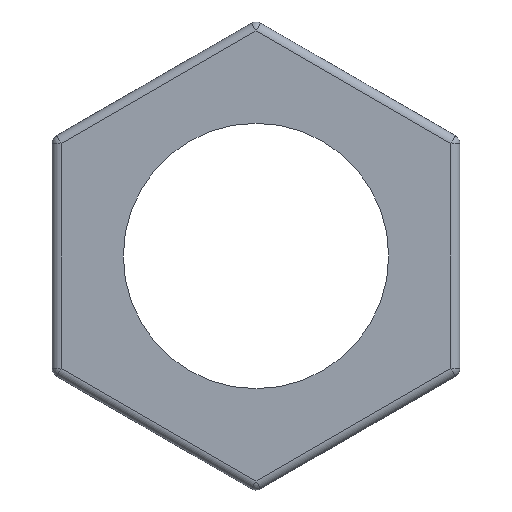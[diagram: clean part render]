
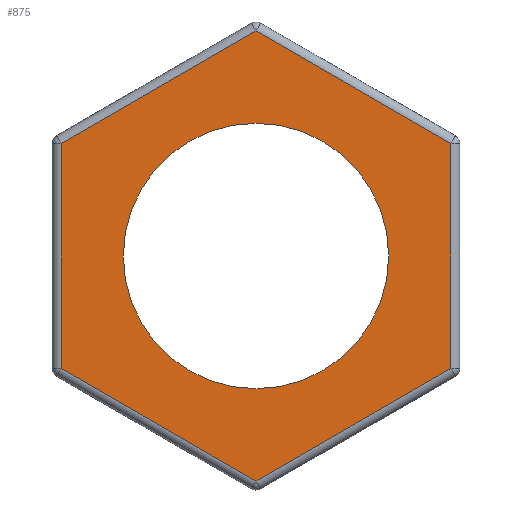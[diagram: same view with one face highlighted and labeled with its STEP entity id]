
A CAD part, left-side view. The second image highlights one B-rep face of the part: STEP entity #875.
In plain terms, the highlighted planar face has unit normal (-1, 0, 0).
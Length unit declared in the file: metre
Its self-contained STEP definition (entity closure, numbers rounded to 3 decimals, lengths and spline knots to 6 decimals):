
#15=PLANE('',#1006);
#76=LINE('',#1431,#124);
#79=LINE('',#1437,#127);
#81=LINE('',#1487,#129);
#88=LINE('',#1507,#136);
#91=LINE('',#1555,#139);
#100=LINE('',#1579,#148);
#124=VECTOR('',#1095,1.);
#127=VECTOR('',#1102,1.);
#129=VECTOR('',#1126,1.);
#136=VECTOR('',#1147,1.);
#139=VECTOR('',#1174,1.);
#148=VECTOR('',#1201,1.);
#337=ORIENTED_EDGE('',*,*,#526,.T.);
#338=ORIENTED_EDGE('',*,*,#455,.F.);
#339=ORIENTED_EDGE('',*,*,#443,.F.);
#340=ORIENTED_EDGE('',*,*,#439,.F.);
#341=ORIENTED_EDGE('',*,*,#465,.F.);
#342=ORIENTED_EDGE('',*,*,#491,.F.);
#343=ORIENTED_EDGE('',*,*,#478,.F.);
#439=EDGE_CURVE('',#550,#543,#76,.T.);
#443=EDGE_CURVE('',#543,#552,#79,.T.);
#455=EDGE_CURVE('',#552,#559,#81,.T.);
#465=EDGE_CURVE('',#564,#550,#88,.T.);
#478=EDGE_CURVE('',#559,#572,#91,.T.);
#491=EDGE_CURVE('',#572,#564,#100,.T.);
#526=EDGE_CURVE('',#595,#595,#657,.T.);
#543=VERTEX_POINT('',#1407);
#550=VERTEX_POINT('',#1429);
#552=VERTEX_POINT('',#1435);
#559=VERTEX_POINT('',#1485);
#564=VERTEX_POINT('',#1505);
#572=VERTEX_POINT('',#1553);
#595=VERTEX_POINT('',#1692);
#657=CIRCLE('',#1007,0.0025);
#710=EDGE_LOOP('',(#337));
#711=EDGE_LOOP('',(#338,#339,#340,#341,#342,#343));
#782=FACE_BOUND('',#710,.T.);
#783=FACE_BOUND('',#711,.T.);
#875=ADVANCED_FACE('',(#782,#783),#15,.F.);
#1006=AXIS2_PLACEMENT_3D('',#1690,#1277,#1278);
#1007=AXIS2_PLACEMENT_3D('',#1691,#1279,#1280);
#1095=DIRECTION('',(0.,0.866,-0.5));
#1102=DIRECTION('',(0.,0.866,0.5));
#1126=DIRECTION('',(0.,0.,1.));
#1147=DIRECTION('',(0.,0.,-1.));
#1174=DIRECTION('',(0.,-0.866,0.5));
#1201=DIRECTION('',(0.,-0.866,-0.5));
#1277=DIRECTION('',(1.,0.,0.));
#1278=DIRECTION('',(0.,-1.,0.));
#1279=DIRECTION('',(1.,0.,0.));
#1280=DIRECTION('',(0.,-1.,0.));
#1407=CARTESIAN_POINT('',(-0.022677,0.017832,-0.002942));
#1429=CARTESIAN_POINT('',(-0.022677,0.014162,-0.000822));
#1431=CARTESIAN_POINT('',(-0.022677,0.014162,-0.000822));
#1435=CARTESIAN_POINT('',(-0.022677,0.021503,-0.000822));
#1437=CARTESIAN_POINT('',(-0.022677,0.017832,-0.002942));
#1485=CARTESIAN_POINT('',(-0.022677,0.021503,0.003416));
#1487=CARTESIAN_POINT('',(-0.022677,0.021503,-0.000822));
#1505=CARTESIAN_POINT('',(-0.022677,0.014162,0.003416));
#1507=CARTESIAN_POINT('',(-0.022677,0.014162,0.003416));
#1553=CARTESIAN_POINT('',(-0.022677,0.017832,0.005536));
#1555=CARTESIAN_POINT('',(-0.022677,0.021503,0.003416));
#1579=CARTESIAN_POINT('',(-0.022677,0.017832,0.005536));
#1690=CARTESIAN_POINT('',(-0.022677,0.017832,0.001297));
#1691=CARTESIAN_POINT('',(-0.022677,0.017832,0.001297));
#1692=CARTESIAN_POINT('',(-0.022677,0.015332,0.001297));
